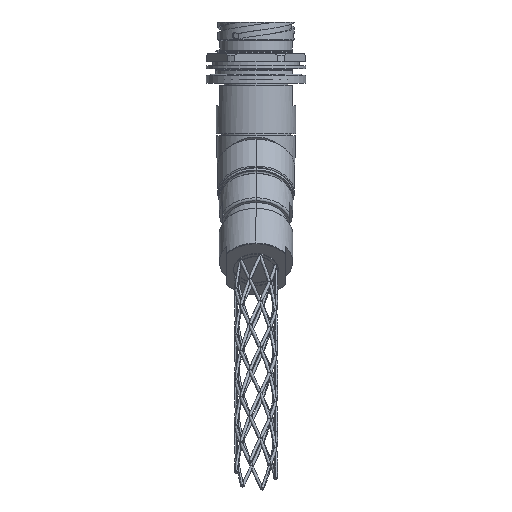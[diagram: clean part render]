
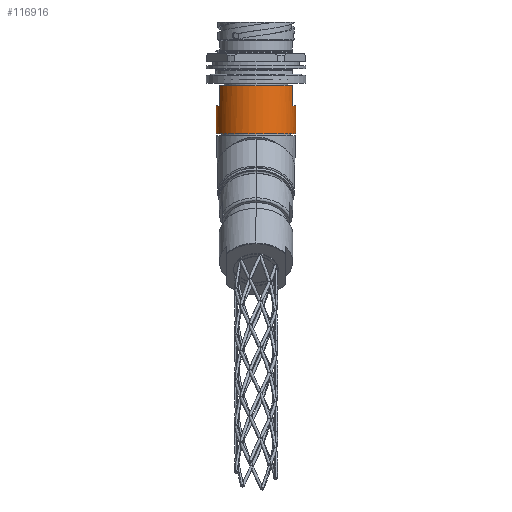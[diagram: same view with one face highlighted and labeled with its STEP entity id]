
A CAD part, front view. The second image highlights one B-rep face of the part: STEP entity #116916.
In plain terms, the highlighted cylindrical face has radius 18.86 mm (diameter 37.719 mm), a partial arc.
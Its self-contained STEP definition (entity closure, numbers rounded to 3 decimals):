
#1491 = CARTESIAN_POINT ( 'NONE',  ( -17.208, -7.717, -30.328 ) ) ;
#5909 = CIRCLE ( 'NONE', #90271, 18.86 ) ;
#6162 = CARTESIAN_POINT ( 'NONE',  ( 0., 0., -30.328 ) ) ;
#6733 = CIRCLE ( 'NONE', #53107, 18.86 ) ;
#7490 = ORIENTED_EDGE ( 'NONE', *, *, #68331, .F. ) ;
#7901 = CARTESIAN_POINT ( 'NONE',  ( 18.859, 0., -30.328 ) ) ;
#8999 = CARTESIAN_POINT ( 'NONE',  ( -17.209, -7.717, -30.328 ) ) ;
#9622 = CIRCLE ( 'NONE', #79114, 18.86 ) ;
#14218 = VECTOR ( 'NONE', #111648, 1000. ) ;
#14640 = LINE ( 'NONE', #1491, #75055 ) ;
#15137 = EDGE_LOOP ( 'NONE', ( #7490, #92264, #104073, #57353, #39605, #111257, #44832, #118695 ) ) ;
#16860 = EDGE_CURVE ( 'NONE', #60586, #120276, #5909, .T. ) ;
#17869 = VECTOR ( 'NONE', #118082, 1000. ) ;
#18491 = DIRECTION ( 'NONE',  ( 0., 0., 1. ) ) ;
#21524 = CARTESIAN_POINT ( 'NONE',  ( 17.208, -7.717, -30.328 ) ) ;
#22294 = AXIS2_PLACEMENT_3D ( 'NONE', #103137, #74719, #34468 ) ;
#23565 = VERTEX_POINT ( 'NONE', #116650 ) ;
#23934 = CARTESIAN_POINT ( 'NONE',  ( -18.86, 0., -53.01 ) ) ;
#24026 = DIRECTION ( 'NONE',  ( 0., 0., -1. ) ) ;
#31784 = CARTESIAN_POINT ( 'NONE',  ( -18.86, 0., -30.328 ) ) ;
#32561 = AXIS2_PLACEMENT_3D ( 'NONE', #6162, #24026, #35212 ) ;
#33746 = LINE ( 'NONE', #31784, #14218 ) ;
#34468 = DIRECTION ( 'NONE',  ( 1., 0., 0. ) ) ;
#35212 = DIRECTION ( 'NONE',  ( 1., 0., 0. ) ) ;
#39605 = ORIENTED_EDGE ( 'NONE', *, *, #80210, .F. ) ;
#43585 = EDGE_CURVE ( 'NONE', #125486, #70004, #33746, .T. ) ;
#44832 = ORIENTED_EDGE ( 'NONE', *, *, #16860, .T. ) ;
#45104 = FACE_OUTER_BOUND ( 'NONE', #15137, .T. ) ;
#47460 = VECTOR ( 'NONE', #124708, 1000. ) ;
#53107 = AXIS2_PLACEMENT_3D ( 'NONE', #110190, #18491, #89754 ) ;
#57353 = ORIENTED_EDGE ( 'NONE', *, *, #112854, .F. ) ;
#57541 = DIRECTION ( 'NONE',  ( 0., 0., -1. ) ) ;
#60031 = CARTESIAN_POINT ( 'NONE',  ( 17.208, -7.717, -39.853 ) ) ;
#60586 = VERTEX_POINT ( 'NONE', #21524 ) ;
#65662 = DIRECTION ( 'NONE',  ( 1., 0., 0. ) ) ;
#67633 = CARTESIAN_POINT ( 'NONE',  ( 0., 0., -39.853 ) ) ;
#68331 = EDGE_CURVE ( 'NONE', #125486, #90955, #6733, .T. ) ;
#68642 = CIRCLE ( 'NONE', #22294, 18.86 ) ;
#70004 = VERTEX_POINT ( 'NONE', #23934 ) ;
#72217 = CARTESIAN_POINT ( 'NONE',  ( -18.86, 0., -39.853 ) ) ;
#74719 = DIRECTION ( 'NONE',  ( 0., 0., -1. ) ) ;
#75055 = VECTOR ( 'NONE', #83308, 1000. ) ;
#75662 = VERTEX_POINT ( 'NONE', #60031 ) ;
#79114 = AXIS2_PLACEMENT_3D ( 'NONE', #67633, #115792, #65662 ) ;
#79149 = LINE ( 'NONE', #7901, #17869 ) ;
#80210 = EDGE_CURVE ( 'NONE', #75662, #117687, #9622, .T. ) ;
#82036 = EDGE_CURVE ( 'NONE', #60586, #75662, #95665, .T. ) ;
#83308 = DIRECTION ( 'NONE',  ( 0., 0., 1. ) ) ;
#84899 = CARTESIAN_POINT ( 'NONE',  ( 18.86, 0., -39.853 ) ) ;
#85771 = CARTESIAN_POINT ( 'NONE',  ( 17.208, -7.717, -30.328 ) ) ;
#87259 = DIRECTION ( 'NONE',  ( 1., 0., 0. ) ) ;
#89754 = DIRECTION ( 'NONE',  ( 0., 1., 0. ) ) ;
#90271 = AXIS2_PLACEMENT_3D ( 'NONE', #108349, #57541, #87259 ) ;
#90604 = EDGE_CURVE ( 'NONE', #90955, #120276, #14640, .T. ) ;
#90955 = VERTEX_POINT ( 'NONE', #122883 ) ;
#92264 = ORIENTED_EDGE ( 'NONE', *, *, #43585, .T. ) ;
#95665 = LINE ( 'NONE', #85771, #47460 ) ;
#96582 = CYLINDRICAL_SURFACE ( 'NONE', #32561, 18.86 ) ;
#103137 = CARTESIAN_POINT ( 'NONE',  ( 0., 0., -53.01 ) ) ;
#104073 = ORIENTED_EDGE ( 'NONE', *, *, #129880, .F. ) ;
#108349 = CARTESIAN_POINT ( 'NONE',  ( 0., 0., -30.328 ) ) ;
#110190 = CARTESIAN_POINT ( 'NONE',  ( 0., 0., -39.853 ) ) ;
#111257 = ORIENTED_EDGE ( 'NONE', *, *, #82036, .F. ) ;
#111648 = DIRECTION ( 'NONE',  ( 0., 0., -1. ) ) ;
#112854 = EDGE_CURVE ( 'NONE', #117687, #23565, #79149, .T. ) ;
#115792 = DIRECTION ( 'NONE',  ( 0., 0., 1. ) ) ;
#116650 = CARTESIAN_POINT ( 'NONE',  ( 18.86, 0., -53.01 ) ) ;
#116916 = ADVANCED_FACE ( 'NONE', ( #45104 ), #96582, .T. ) ;
#117687 = VERTEX_POINT ( 'NONE', #84899 ) ;
#118082 = DIRECTION ( 'NONE',  ( 0., 0., -1. ) ) ;
#118695 = ORIENTED_EDGE ( 'NONE', *, *, #90604, .F. ) ;
#120276 = VERTEX_POINT ( 'NONE', #8999 ) ;
#122883 = CARTESIAN_POINT ( 'NONE',  ( -17.209, -7.717, -39.853 ) ) ;
#124708 = DIRECTION ( 'NONE',  ( 0., 0., -1. ) ) ;
#125486 = VERTEX_POINT ( 'NONE', #72217 ) ;
#129880 = EDGE_CURVE ( 'NONE', #23565, #70004, #68642, .T. ) ;
